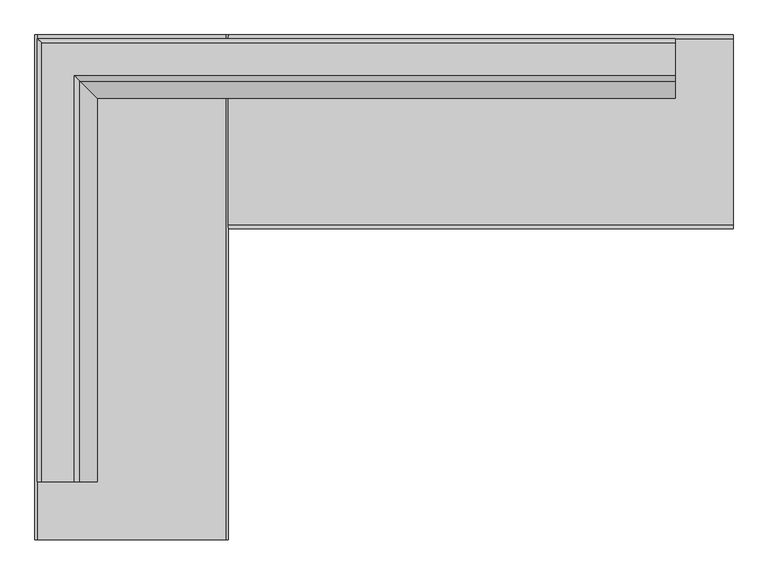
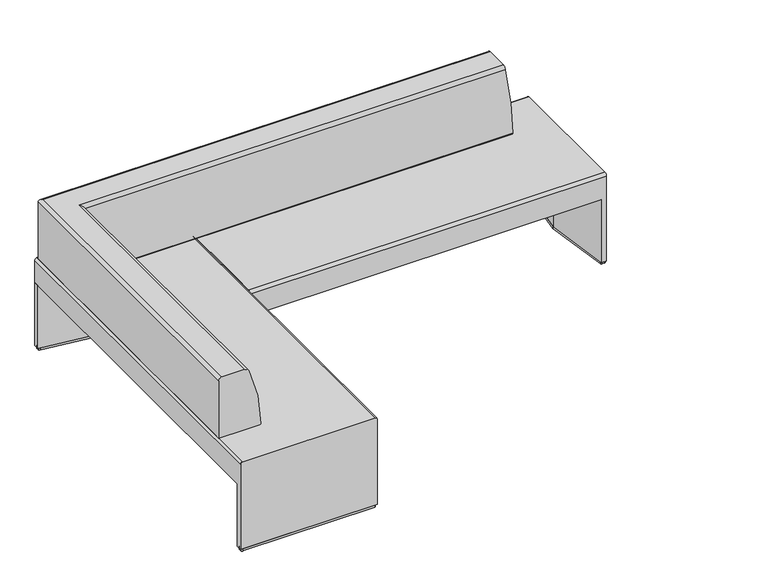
"""IFC4 building model written with IfcOpenShell, lengths in millimetres: furniture geometry, Steelcase Coalesse - Together  - Seating - Bench - Left Corner : 8in Back Offset - 69.75D x 96.5W."""

from ifc_helpers import new_model, si_unit, point, frame, frame_2d, origin, origin_with_axes, place, context, project, spatial, polyline, circle_curve, ellipse_curve, trimmed, segment, composite_curve, outline, extrude, source, transform, mapped, element, save
from ifc_brep_helpers import plane_surface, cylinder_surface, advanced_brep


def furniture_0e0bb3f7(model_context):
    return source(origin(), model_context, "Body", "SolidModel", [
        extrude(outline(composite_curve([segment(polyline([(1701.7260341, 342.7173042), (1745.4494541, 668.3404046)]), True, "CONTINUOUS"), segment(trimmed(circle_curve(frame_2d((1752.4178665, 667.4047129)), 7.0309522), [point((1745.4494541, 668.3404046))], [point((1752.4121236, 674.4356628))], False, "CARTESIAN"), True, "CONTINUOUS"), segment(polyline([(1752.4121236, 674.4356628), (1764.935141, 674.4458915)]), True, "CONTINUOUS"), segment(trimmed(circle_curve(frame_2d((1764.9403277, 668.0958937)), 6.35), [point((1764.935141, 674.4458915))], [point((1771.2903256, 668.1010803))], False, "CARTESIAN"), True, "CONTINUOUS"), segment(polyline([(1771.2903256, 668.1010803), (1771.8258418, 12.4700002)]), True, "CONTINUOUS"), segment(trimmed(circle_curve(frame_2d((1765.4758439, 12.4648135)), 6.35), [point((1771.8258418, 12.4700002))], [point((1765.4810305, 6.1148157))], False, "CARTESIAN"), True, "CONTINUOUS"), segment(polyline([(1765.4810305, 6.1148157), (1753.0237657, 6.1046406)]), True, "CONTINUOUS"), segment(trimmed(circle_curve(frame_2d((1753.0185791, 12.4546385)), 6.35), [point((1753.0237657, 6.1046406))], [point((1746.7264214, 11.5995062))], False, "CARTESIAN"), True, "CONTINUOUS"), segment(polyline([(1746.7264214, 11.5995062), (1701.7260341, 342.7173042)]), True, "CONTINUOUS")], self_intersect=False)), origin_with_axes(), (0.0, 0.0, 1.0), 12.7976677),
        extrude(outline(composite_curve([segment(polyline([(-342.242834, 610.6565573), (-667.8301127, 654.6459299)]), True, "CONTINUOUS"), segment(trimmed(circle_curve(frame_2d((-666.8887296, 661.6135757)), 7.0309522), [point((-667.8301127, 654.6459299))], [point((-673.9196818, 661.6135757))], False, "CARTESIAN"), True, "CONTINUOUS"), segment(polyline([(-673.9196818, 661.6135757), (-673.9196818, 674.1365973)]), True, "CONTINUOUS"), segment(trimmed(circle_curve(frame_2d((-667.5696818, 674.1365973)), 6.35), [point((-673.9196818, 674.1365973))], [point((-667.5696818, 680.4865973))], False, "CARTESIAN"), True, "CONTINUOUS"), segment(polyline([(-667.5696818, 680.4865973), (-11.938383, 680.4865973)]), True, "CONTINUOUS"), segment(trimmed(circle_curve(frame_2d((-11.938383, 674.1365973)), 6.35), [point((-11.938383, 680.4865973))], [point((-5.588383, 674.1365973))], False, "CARTESIAN"), True, "CONTINUOUS"), segment(polyline([(-5.588383, 674.1365973), (-5.588383, 661.6793283)]), True, "CONTINUOUS"), segment(trimmed(circle_curve(frame_2d((-11.938383, 661.6793283)), 6.35), [point((-5.588383, 661.6793283))], [point((-11.0883904, 655.3864742))], False, "CARTESIAN"), True, "CONTINUOUS"), segment(polyline([(-11.0883904, 655.3864742), (-342.242834, 610.6565573)]), True, "CONTINUOUS")], self_intersect=False)), origin_with_axes(), (0.0, 0.0, 1.0), 12.7976677),
        extrude(outline(composite_curve([segment(polyline([(-342.242834, -1020.6704812), (-11.0883904, -1065.4003981)]), True, "CONTINUOUS"), segment(trimmed(circle_curve(frame_2d((-11.938383, -1071.6932522)), 6.35), [point((-11.0883904, -1065.4003981))], [point((-5.588383, -1071.6932522))], False, "CARTESIAN"), True, "CONTINUOUS"), segment(polyline([(-5.588383, -1071.6932522), (-5.588383, -1084.1505212)]), True, "CONTINUOUS"), segment(trimmed(circle_curve(frame_2d((-11.938383, -1084.1505212)), 6.35), [point((-5.588383, -1084.1505212))], [point((-11.938383, -1090.5005212))], False, "CARTESIAN"), True, "CONTINUOUS"), segment(polyline([(-11.938383, -1090.5005212), (-667.5696818, -1090.5005212)]), True, "CONTINUOUS"), segment(trimmed(circle_curve(frame_2d((-667.5696818, -1084.1505212)), 6.35), [point((-667.5696818, -1090.5005212))], [point((-673.9196818, -1084.1505212))], False, "CARTESIAN"), True, "CONTINUOUS"), segment(polyline([(-673.9196818, -1084.1505212), (-673.9196818, -1071.6274996)]), True, "CONTINUOUS"), segment(trimmed(circle_curve(frame_2d((-666.8887296, -1071.6274996)), 7.0309522), [point((-673.9196818, -1071.6274996))], [point((-667.8301127, -1064.6598538))], False, "CARTESIAN"), True, "CONTINUOUS"), segment(polyline([(-667.8301127, -1064.6598538), (-342.242834, -1020.6704812)]), True, "CONTINUOUS")], self_intersect=False)), origin_with_axes(), (0.0, 0.0, 1.0), 12.7976677),
        advanced_brep(
        [(1771.7783223, 12.7, 471.2287949), (1771.7783223, 0.0, 458.5287949), (1771.7783223, 0.0, 12.7976677), (1771.7783223, 680.4865973, 12.7976677), (1771.7783223, 680.4865973, 458.5287949), (1771.7783223, 667.7865973, 471.2287949), (0.0, 12.7, 471.2287949), (0.0, 667.7865973, 471.2287949), (0.0, 680.4865973, 458.5287949), (0.0, 680.4865973, 343.3718099), (0.0, 0.0, 343.3718099), (0.0, 0.0, 458.5287949), (1745.6026241, 0.0, 343.3718099), (1745.6015424, 0.0, 12.7976677), (1745.9085944, 680.4865973, 343.3718099), (1701.2700419, 337.8527218, 343.3718099), (1745.9096556, 680.4865973, 12.7976677), (1701.2700419, 337.8527218, 12.7976677)],
        [
            (0, 1, circle_curve(frame((1771.7783223, 12.7, 458.5287949), z_axis=(1.0, 0.0, 0.0), x_axis=(0.0, -1.0, 0.0)), 12.7)),
            (1, 2),
            (2, 3),
            (3, 4),
            (4, 5, circle_curve(frame((1771.7783223, 667.7865973, 458.5287949), z_axis=(1.0, 0.0, 0.0), x_axis=(0.0, -1.0, 0.0)), 12.7)),
            (5, 0),
            (6, 7),
            (7, 8, circle_curve(frame((0.0, 667.7865973, 458.5287949), z_axis=(-1.0, 0.0, 0.0), x_axis=(0.0, -1.0, 0.0)), 12.7)),
            (8, 9),
            (9, 10),
            (10, 11),
            (11, 6, circle_curve(frame((0.0, 12.7, 458.5287949), z_axis=(-1.0, 0.0, 0.0), x_axis=(0.0, -1.0, 0.0)), 12.7)),
            (0, 6),
            (11, 1),
            (10, 12),
            (12, 13),
            (13, 2),
            (9, 14),
            (14, 15),
            (15, 12),
            (3, 16),
            (16, 14),
            (8, 4),
            (7, 5),
            (17, 16),
            (13, 17),
            (15, 17),
        ],
        [
            plane_surface(frame((1771.7783223, 0.0, 458.5287949), z_axis=(1.0, 0.0, 0.0), x_axis=(0.0, 0.0, -1.0))),
            plane_surface(frame((0.0, 0.0, 458.5287949), z_axis=(-1.0, 0.0, 0.0), x_axis=(0.0, 0.0, 1.0))),
            cylinder_surface(frame((0.0, 12.7, 458.5287949), z_axis=(1.0, 0.0, 0.0), x_axis=(0.0, -1.0, 0.0)), 12.7),
            plane_surface(frame((1771.7783223, 0.0, 458.5287949), z_axis=(0.0, -1.0, 0.0), x_axis=(-1.0, 0.0, 0.0))),
            plane_surface(frame((1771.7783223, 0.0, 343.3718099), z_axis=(0.0, 0.0, -1.0), x_axis=(-1.0, 0.0, 0.0))),
            plane_surface(frame((1771.7783223, 680.4865973, 343.3718099), z_axis=(0.0, 1.0, 0.0), x_axis=(-1.0, 0.0, 0.0))),
            cylinder_surface(frame((0.0, 667.7865973, 458.5287949), z_axis=(1.0, 0.0, 0.0), x_axis=(0.0, -1.0, 0.0)), 12.7),
            plane_surface(frame((1771.7783223, 667.7865973, 471.2287949), z_axis=(0.0, 0.0, 1.0), x_axis=(-1.0, 0.0, 0.0))),
            plane_surface(frame((1701.2700419, 337.8527218, 12.7976677), z_axis=(0.0, 0.0, -1.0), x_axis=(-0.13010336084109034, 0.9915004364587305, 0.0))),
            plane_surface(frame((1701.2700419, 337.8527218, 343.3718099), z_axis=(-0.9915004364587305, -0.13010336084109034, 0.0), x_axis=(0.0, 0.0, -1.0))),
            plane_surface(frame((1745.9096556, 680.4947435, 343.3718099), z_axis=(-0.9916200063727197, 0.1291888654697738, 0.0), x_axis=(0.0, 0.0, -1.0))),
        ],
        [
            (0, [[1, 2, 3, 4, 5, 6]]),
            (1, [[7, 8, 9, 10, 11, 12]]),
            (2, [[-1, 13, -12, 14]]),
            (3, [[-2, -14, -11, 15, 16, 17]]),
            (4, [[-10, 18, 19, 20, -15]]),
            (5, [[-4, 21, 22, -18, -9, 23]]),
            (6, [[-5, -23, -8, 24]]),
            (7, [[-6, -24, -7, -13]]),
            (8, [[25, -21, -3, -17, 26]]),
            (9, [[-26, -16, -20, 27]]),
            (10, [[-25, -27, -19, -22]]),
        ],
    ),
        advanced_brep(
        [(0.0, -1091.3836068, 462.8584293), (-8.3703656, -1091.3836068, 471.2287949), (-669.1616777, -1091.3836068, 471.2287949), (-679.3216777, -1091.3836068, 461.0687949), (-679.3216777, -1091.3836068, 12.7976677), (0.0, -1091.3836068, 12.7976677), (0.0, 680.2663932, 343.3718099), (-679.3216777, 680.2663932, 343.3718099), (-679.3216777, 680.2663932, 461.0687949), (-669.1616777, 680.2663932, 471.2287949), (-8.3703656, 680.2663932, 471.2287949), (0.0, 680.2663932, 462.8584293), (0.0, -1065.3918934, 12.7976677), (0.0, -1065.3918934, 343.3718099), (-679.3216777, -1065.3918934, 343.3718099), (-679.3216777, -1065.3918934, 12.7976677), (-337.6103648, -1020.9829621, 343.3718099), (-337.6103648, -1020.9829621, 12.7976677)],
        [
            (0, 1, circle_curve(frame((-8.3703656, -1091.3836068, 462.8584293), z_axis=(0.0, -1.0, 0.0), x_axis=(1.0, 0.0, 0.0)), 8.3703656)),
            (1, 2),
            (2, 3, circle_curve(frame((-669.1616777, -1091.3836068, 461.0687949), z_axis=(0.0, -1.0, 0.0), x_axis=(1.0, 0.0, 0.0)), 10.16)),
            (3, 4),
            (4, 5),
            (5, 0),
            (6, 7),
            (7, 8),
            (8, 9, circle_curve(frame((-669.1616777, 680.2663932, 461.0687949), z_axis=(0.0, 1.0, 0.0), x_axis=(1.0, 0.0, 0.0)), 10.16)),
            (9, 10),
            (10, 11, circle_curve(frame((-8.3703656, 680.2663932, 462.8584293), z_axis=(0.0, 1.0, 0.0), x_axis=(1.0, 0.0, 0.0)), 8.3703656)),
            (11, 6),
            (5, 12),
            (12, 13),
            (13, 6),
            (11, 0),
            (10, 1),
            (9, 2),
            (8, 3),
            (7, 14),
            (14, 15),
            (15, 4),
            (13, 16),
            (16, 14),
            (17, 12),
            (15, 17),
            (16, 17),
        ],
        [
            plane_surface(frame((0.0, -1091.3836068, 432.906134), z_axis=(0.0, -1.0, 0.0), x_axis=(0.0, 0.0, 1.0))),
            plane_surface(frame((0.0, 680.2663932, 432.906134), z_axis=(0.0, 1.0, 0.0), x_axis=(0.0, 0.0, -1.0))),
            plane_surface(frame((0.0, -1091.3836068, 343.3718099), z_axis=(1.0, 0.0, 0.0), x_axis=(0.0, 1.0, 0.0))),
            cylinder_surface(frame((-8.3703656, 680.2663932, 462.8584293), z_axis=(0.0, -1.0, 0.0), x_axis=(1.0, 0.0, 0.0)), 8.3703656),
            plane_surface(frame((-8.3703656, -1091.3836068, 471.2287949), z_axis=(0.0, 0.0, 1.0), x_axis=(0.0, 1.0, 0.0))),
            cylinder_surface(frame((-669.1616777, 680.2663932, 461.0687949), z_axis=(0.0, -1.0, 0.0), x_axis=(1.0, 0.0, 0.0)), 10.16),
            plane_surface(frame((-679.3216777, -1091.3836068, 461.0687949), z_axis=(-1.0, 0.0, 0.0), x_axis=(0.0, 1.0, 0.0))),
            plane_surface(frame((-679.3216777, -1091.3836068, 343.3718099), z_axis=(0.0, 0.0, -1.0), x_axis=(0.0, 1.0, 0.0))),
            plane_surface(frame((-679.3216777, -1065.3918934, 12.7976677), z_axis=(0.0, 0.0, -1.0), x_axis=(0.9916606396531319, 0.12887659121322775, 0.0))),
            plane_surface(frame((-337.6103648, -1020.9829621, 343.3718099), z_axis=(-0.12887659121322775, 0.9916606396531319, 0.0), x_axis=(0.0, 0.0, -1.0))),
            plane_surface(frame((0.0, -1065.3918934, 343.3718099), z_axis=(0.13041558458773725, 0.9914594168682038, 0.0), x_axis=(0.0, 0.0, -1.0))),
        ],
        [
            (0, [[1, 2, 3, 4, 5, 6]]),
            (1, [[7, 8, 9, 10, 11, 12]]),
            (2, [[-6, 13, 14, 15, -12, 16]]),
            (3, [[-1, -16, -11, 17]]),
            (4, [[-2, -17, -10, 18]]),
            (5, [[-3, -18, -9, 19]]),
            (6, [[-4, -19, -8, 20, 21, 22]]),
            (7, [[-7, -15, 23, 24, -20]]),
            (8, [[25, -13, -5, -22, 26]]),
            (9, [[-26, -21, -24, 27]]),
            (10, [[-25, -27, -23, -14]]),
        ],
    ),
        extrude(outline(polyline([(-337.6103648, 610.0859526), (-679.4232219, 654.5080806), (-679.4232219, 680.4865973), (0.0, 680.4865973), (0.0, 654.4948838), (-337.6103648, 610.0859526)])), frame((0.0, 0.0, 12.7976677), z_axis=(0.0, 0.0, 1.0), x_axis=(1.0, 0.0, 0.0)), (0.0, 0.0, 1.0), 330.5741422),
        advanced_brep(
        [(-542.7579952, -888.1836068, 789.6908243), (-654.9720681, -888.1836068, 789.6908243), (-670.6127132, -888.1836068, 774.0501793), (-670.6127132, -888.1836068, 471.9907949), (-669.8507132, -888.1836068, 471.2287949), (-467.2326916, -888.1836068, 471.2287949), (-460.8827115, -888.1836068, 477.5628851), (-521.8690853, -888.1836068, 775.9296487), (-542.7579952, 539.2094278, 789.6908243), (1568.5783223, 539.2094278, 789.6908243), (1568.5783223, 651.4235007, 789.6908243), (-654.9720681, 651.4235007, 789.6908243), (-670.6127132, 667.0641458, 774.0501793), (-670.6127132, 667.0641458, 471.9907949), (-669.8507132, 666.3021458, 471.2287949), (1568.5783223, 666.3021458, 471.2287949), (1568.5783223, 463.6841242, 471.2287949), (-467.2326916, 463.6841242, 471.2287949), (-460.8827115, 457.3341441, 477.5628851), (-521.8690853, 518.3205179, 775.9296487), (1568.5783223, 518.3205179, 775.9296487), (1568.5783223, 457.3341441, 477.5628851), (1568.5783223, 667.0641458, 471.9907949), (1568.5783223, 667.0641458, 774.0501793)],
        [
            (0, 1),
            (1, 2, circle_curve(frame((-654.9720681, -888.1836068, 774.0501793), z_axis=(0.0, -1.0, 0.0), x_axis=(-1.0, 0.0, 0.0)), 15.6406451)),
            (2, 3),
            (3, 4, circle_curve(frame((-669.8507132, -888.1836068, 471.9907949), z_axis=(0.0, -1.0, 0.0), x_axis=(-1.0, 0.0, 0.0)), 0.762)),
            (4, 5),
            (5, 6, circle_curve(frame((-467.2326916, -888.1836068, 477.5787949), z_axis=(0.0, -1.0, 0.0), x_axis=(-1.0, 0.0, 0.0)), 6.35)),
            (6, 7, circle_curve(frame((-1212.0260917, -888.1836068, 479.4448666), z_axis=(0.0, -1.0, 0.0), x_axis=(-1.0, 0.0, 0.0)), 751.1457378)),
            (7, 0, circle_curve(frame((-542.7579952, -888.1836068, 766.9559749), z_axis=(0.0, -1.0, 0.0), x_axis=(-1.0, 0.0, 0.0)), 22.7348495)),
            (0, 8),
            (8, 9),
            (9, 10),
            (10, 11),
            (11, 1),
            (11, 12, ellipse_curve(frame((-654.9720681, 651.4235007, 774.0501793), z_axis=(-0.7071067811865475, -0.7071067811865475, 0.0), x_axis=(0.7071067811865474, -0.7071067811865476, 0.0)), 22.1192124, 15.6406451)),
            (12, 2),
            (12, 13),
            (13, 3),
            (13, 14, ellipse_curve(frame((-669.8507132, 666.3021458, 471.9907949), z_axis=(-0.7071067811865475, -0.7071067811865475, 0.0), x_axis=(0.7071067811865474, -0.7071067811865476, 0.0)), 1.0776307, 0.762)),
            (14, 4),
            (14, 15),
            (15, 16),
            (16, 17),
            (17, 5),
            (17, 18, ellipse_curve(frame((-467.2326916, 463.6841242, 477.5787949), z_axis=(-0.7071067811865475, -0.7071067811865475, 0.0), x_axis=(0.7071067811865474, -0.7071067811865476, 0.0)), 8.9802561, 6.35)),
            (18, 6),
            (18, 19, ellipse_curve(frame((-1212.0260917, 1208.4775243, 479.4448666), z_axis=(-0.7071067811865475, -0.7071067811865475, 0.0), x_axis=(0.7071067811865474, -0.7071067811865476, 0.0)), 1062.2804897, 751.1457378)),
            (19, 7),
            (19, 8, ellipse_curve(frame((-542.7579952, 539.2094278, 766.9559749), z_axis=(-0.7071067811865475, -0.7071067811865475, 0.0), x_axis=(0.7071067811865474, -0.7071067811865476, 0.0)), 32.1519324, 22.7348495)),
            (9, 20, circle_curve(frame((1568.5783223, 539.2094278, 766.9559749), z_axis=(1.0, 0.0, 0.0), x_axis=(0.0, 1.0, 0.0)), 22.7348495)),
            (20, 21, circle_curve(frame((1568.5783223, 1208.4775243, 479.4448666), z_axis=(1.0, 0.0, 0.0), x_axis=(0.0, 1.0, 0.0)), 751.1457378)),
            (21, 16, circle_curve(frame((1568.5783223, 463.6841242, 477.5787949), z_axis=(1.0, 0.0, 0.0), x_axis=(0.0, 1.0, 0.0)), 6.35)),
            (15, 22, circle_curve(frame((1568.5783223, 666.3021458, 471.9907949), z_axis=(1.0, 0.0, 0.0), x_axis=(0.0, 1.0, 0.0)), 0.762)),
            (22, 23),
            (23, 10, circle_curve(frame((1568.5783223, 651.4235007, 774.0501793), z_axis=(1.0, 0.0, 0.0), x_axis=(0.0, 1.0, 0.0)), 15.6406451)),
            (23, 12),
            (22, 13),
            (21, 18),
            (20, 19),
        ],
        [
            plane_surface(frame((-460.0482755, -888.1836068, 0.0), z_axis=(0.0, -1.0, 0.0), x_axis=(0.0, 0.0, 1.0))),
            plane_surface(frame((-542.7579952, -888.1836068, 789.6908243), z_axis=(0.0, 0.0, 1.0), x_axis=(0.0, 1.0, 0.0))),
            cylinder_surface(frame((-654.9720681, -888.1836068, 774.0501793), z_axis=(0.0, -1.0, 0.0), x_axis=(-1.0, 0.0, 0.0)), 15.6406451),
            plane_surface(frame((-670.6127132, -888.1836068, 774.0501793), z_axis=(-1.0, 0.0, 0.0), x_axis=(0.0, 1.0, 0.0))),
            cylinder_surface(frame((-669.8507132, -888.1836068, 471.9907949), z_axis=(0.0, -1.0, 0.0), x_axis=(-1.0, 0.0, 0.0)), 0.762),
            plane_surface(frame((-669.8507132, -888.1836068, 471.2287949), z_axis=(0.0, 0.0, -1.0), x_axis=(0.0, 1.0, 0.0))),
            cylinder_surface(frame((-467.2326916, -888.1836068, 477.5787949), z_axis=(0.0, -1.0, 0.0), x_axis=(-1.0, 0.0, 0.0)), 6.35),
            cylinder_surface(frame((-1212.0260917, -888.1836068, 479.4448666), z_axis=(0.0, -1.0, 0.0), x_axis=(-1.0, 0.0, 0.0)), 751.1457378),
            cylinder_surface(frame((-542.7579952, -888.1836068, 766.9559749), z_axis=(0.0, -1.0, 0.0), x_axis=(-1.0, 0.0, 0.0)), 22.7348495),
            plane_surface(frame((1568.5783223, 456.4997081, 0.0), z_axis=(1.0, 0.0, 0.0), x_axis=(0.0, 0.0, 1.0))),
            cylinder_surface(frame((-460.0482755, 651.4235007, 774.0501793), z_axis=(-1.0, 0.0, 0.0), x_axis=(0.0, 1.0, 0.0)), 15.6406451),
            plane_surface(frame((-670.6127132, 667.0641458, 774.0501793), z_axis=(0.0, 1.0, 0.0), x_axis=(1.0, 0.0, 0.0))),
            cylinder_surface(frame((-460.0482755, 666.3021458, 471.9907949), z_axis=(-1.0, 0.0, 0.0), x_axis=(0.0, 1.0, 0.0)), 0.762),
            cylinder_surface(frame((-460.0482755, 463.6841242, 477.5787949), z_axis=(-1.0, 0.0, 0.0), x_axis=(0.0, 1.0, 0.0)), 6.35),
            cylinder_surface(frame((-460.0482755, 1208.4775243, 479.4448666), z_axis=(-1.0, 0.0, 0.0), x_axis=(0.0, 1.0, 0.0)), 751.1457378),
            cylinder_surface(frame((-460.0482755, 539.2094278, 766.9559749), z_axis=(-1.0, 0.0, 0.0), x_axis=(0.0, 1.0, 0.0)), 22.7348495),
        ],
        [
            (0, [[1, 2, 3, 4, 5, 6, 7, 8]]),
            (1, [[-1, 9, 10, 11, 12, 13]]),
            (2, [[-2, -13, 14, 15]]),
            (3, [[-3, -15, 16, 17]]),
            (4, [[-4, -17, 18, 19]]),
            (5, [[-5, -19, 20, 21, 22, 23]]),
            (6, [[-6, -23, 24, 25]]),
            (7, [[-7, -25, 26, 27]]),
            (8, [[-8, -27, 28, -9]]),
            (9, [[29, 30, 31, -21, 32, 33, 34, -11]]),
            (10, [[-14, -12, -34, 35]]),
            (11, [[-16, -35, -33, 36]]),
            (12, [[-18, -36, -32, -20]]),
            (13, [[-24, -22, -31, 37]]),
            (14, [[-26, -37, -30, 38]]),
            (15, [[-28, -38, -29, -10]]),
        ],
    ),
    ])


if __name__ == "__main__":
    model = new_model("IFC4")
    model_context = context("Model", 3, world=origin())
    ifc_project = project(units=[si_unit("LENGTHUNIT", "METRE", prefix="MILLI")], contexts=[model_context])
    site = spatial("IfcSite", under=ifc_project)
    building = spatial("IfcBuilding", under=site)
    placement = place(None, origin())
    furniture_shape = furniture_0e0bb3f7(model_context)
    element("IfcFurniture", 1, ObjectType="Steelcase Coalesse - Together  - Seating - Bench - Left Corner : 8in Back Offset - 69.75D x 96.5W", at=placement, inside=building, context=model_context, shape_type="MappedRepresentation", body=[
        mapped(furniture_shape, transform((0.0, 0.0, 0.0), x_axis=(1.0, 0.0, 0.0), y_axis=(0.0, 1.0, 0.0), z_axis=(0.0, 0.0, 1.0))),
    ])
    save(model, "model.ifc")
